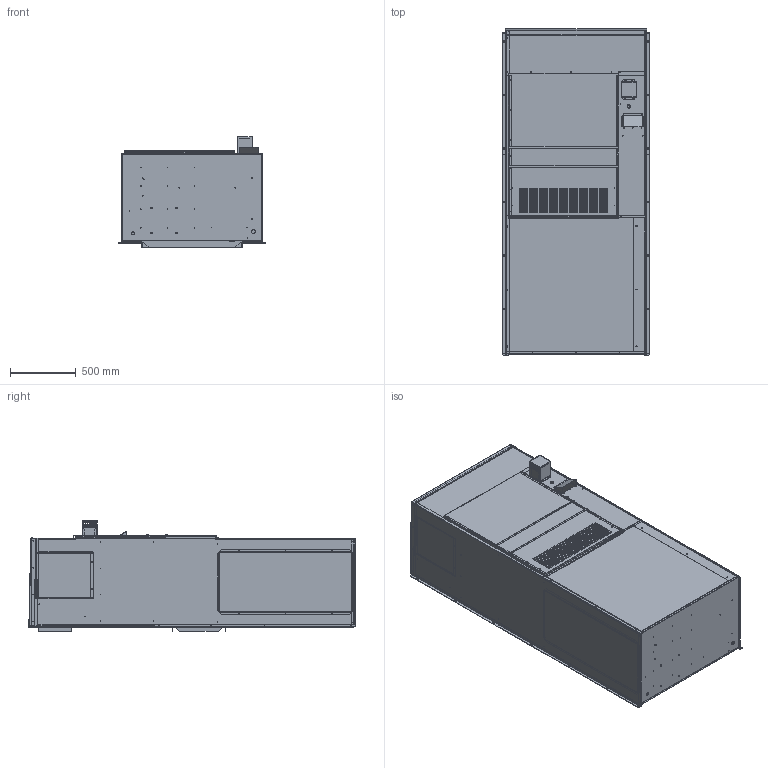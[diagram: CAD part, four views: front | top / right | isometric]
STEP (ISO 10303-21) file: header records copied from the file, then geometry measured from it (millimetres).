
FILE_DESCRIPTION (( 'STEP AP214' ), '1' );
FILE_NAME ('STEP_1600.STEP', '2016-06-29T15:34:56', ( 'BMC' ), ( 'Bard Manufacturing Co., Inc.' ), 'SwSTEP 2.0', 'SolidWorks 2016', '' );
FILE_SCHEMA (( 'AUTOMOTIVE_DESIGN' ));
Length unit declared in the file: inch
Products named in the file (1): STEP_1600
Bounding box: 1112.49 x 2475.68 x 841.9 mm (x, y, z)
Surface area: 21054553.4 mm2 (no closed solid volume)
Topology: 0 solids, 25 shells, 3118 faces, 8735 edges, 5694 vertices
Faces by surface type: cylinder 1355, plane 1279, bspline 484
Entity records: 121168 total; most frequent: CARTESIAN_POINT 35304, ORIENTED_EDGE 17466, DIRECTION 16846, EDGE_CURVE 8735, AXIS2_PLACEMENT_3D 5970, VERTEX_POINT 5694, VECTOR 4906, LINE 4906
